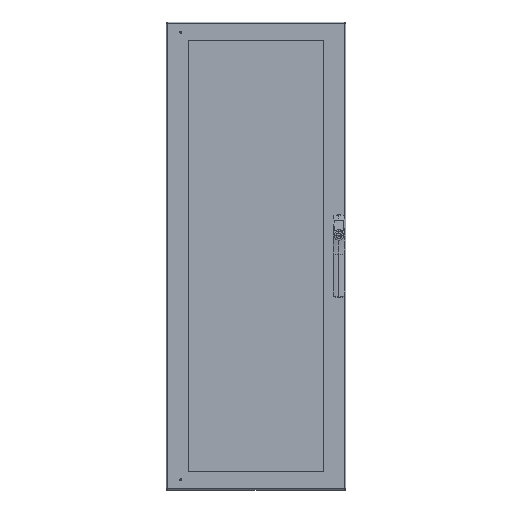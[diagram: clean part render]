
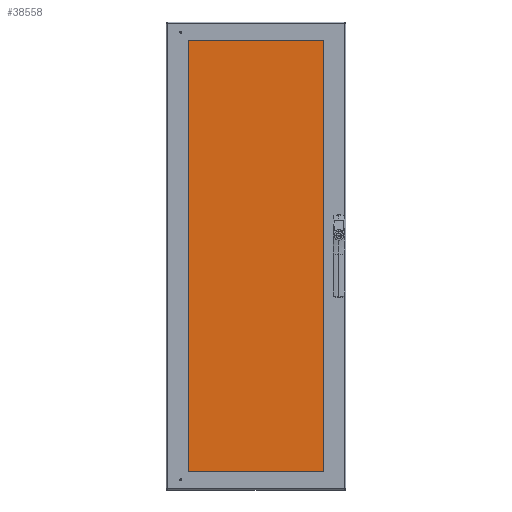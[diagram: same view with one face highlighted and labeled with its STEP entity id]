
A CAD part, top view. The second image highlights one B-rep face of the part: STEP entity #38558.
In plain terms, the highlighted planar face has unit normal (0, 0, 1) as drawn and (0, 0, -1) by its records, which use the part's own axes.
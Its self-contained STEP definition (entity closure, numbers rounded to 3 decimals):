
#6512 = LINE ( 'NONE', #7882, #6524 ) ;
#6514 = LINE ( 'NONE', #7873, #6516 ) ;
#6516 = VECTOR ( 'NONE', #7883, 39.37 ) ;
#6524 = VECTOR ( 'NONE', #7892, 39.37 ) ;
#6525 = LINE ( 'NONE', #7895, #6528 ) ;
#6528 = VECTOR ( 'NONE', #7899, 39.37 ) ;
#6529 = LINE ( 'NONE', #7902, #6533 ) ;
#6533 = VECTOR ( 'NONE', #7905, 39.37 ) ;
#7873 = CARTESIAN_POINT ( 'NONE',  ( -9.22, 28.346, 0. ) ) ;
#7882 = CARTESIAN_POINT ( 'NONE',  ( -9.22, -28.346, 0. ) ) ;
#7883 = DIRECTION ( 'NONE',  ( 0., -1., 0. ) ) ;
#7892 = DIRECTION ( 'NONE',  ( 1., 0., 0. ) ) ;
#7895 = CARTESIAN_POINT ( 'NONE',  ( 9.22, 28.346, 0. ) ) ;
#7899 = DIRECTION ( 'NONE',  ( 0., 1., 0. ) ) ;
#7902 = CARTESIAN_POINT ( 'NONE',  ( -9.22, 28.346, 0. ) ) ;
#7905 = DIRECTION ( 'NONE',  ( -1., 0., 0. ) ) ;
#11184 = CARTESIAN_POINT ( 'NONE',  ( -9.22, -28.346, 0. ) ) ;
#11189 = PLANE ( 'NONE',  #47299 ) ;
#11194 = DIRECTION ( 'NONE',  ( 0., 0., 1. ) ) ;
#11195 = DIRECTION ( 'NONE',  ( 1., 0., 0. ) ) ;
#13050 = FACE_OUTER_BOUND ( 'NONE', #34071, .T. ) ;
#21642 = CARTESIAN_POINT ( 'NONE',  ( -9.22, 28.346, 0. ) ) ;
#21643 = CARTESIAN_POINT ( 'NONE',  ( -9.22, -28.346, 0. ) ) ;
#21646 = CARTESIAN_POINT ( 'NONE',  ( 9.22, -28.346, 0. ) ) ;
#21648 = CARTESIAN_POINT ( 'NONE',  ( 9.22, 28.346, 0. ) ) ;
#34071 = EDGE_LOOP ( 'NONE', ( #35816, #35817, #35818, #35819 ) ) ;
#35816 = ORIENTED_EDGE ( 'NONE', *, *, #42600, .F. ) ;
#35817 = ORIENTED_EDGE ( 'NONE', *, *, #42610, .F. ) ;
#35818 = ORIENTED_EDGE ( 'NONE', *, *, #42607, .F. ) ;
#35819 = ORIENTED_EDGE ( 'NONE', *, *, #42604, .F. ) ;
#38558 = ADVANCED_FACE ( 'NONE', ( #13050 ), #11189, .F. ) ;
#42600 = EDGE_CURVE ( 'NONE', #44377, #44379, #6514, .T. ) ;
#42604 = EDGE_CURVE ( 'NONE', #44379, #44384, #6512, .T. ) ;
#42607 = EDGE_CURVE ( 'NONE', #44384, #44387, #6525, .T. ) ;
#42610 = EDGE_CURVE ( 'NONE', #44387, #44377, #6529, .T. ) ;
#44377 = VERTEX_POINT ( 'NONE', #21642 ) ;
#44379 = VERTEX_POINT ( 'NONE', #21643 ) ;
#44384 = VERTEX_POINT ( 'NONE', #21646 ) ;
#44387 = VERTEX_POINT ( 'NONE', #21648 ) ;
#47299 = AXIS2_PLACEMENT_3D ( 'NONE', #11184, #11194, #11195 ) ;
